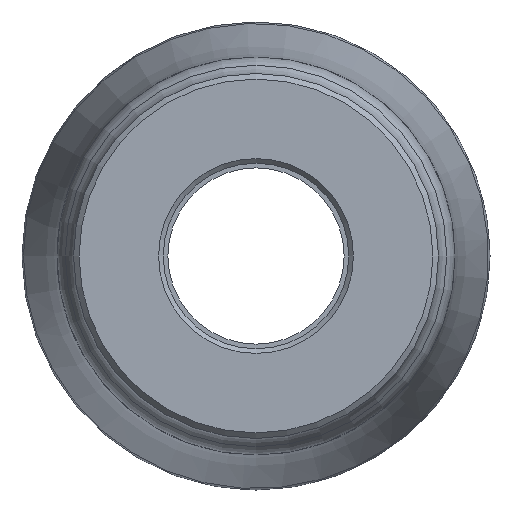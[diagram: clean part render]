
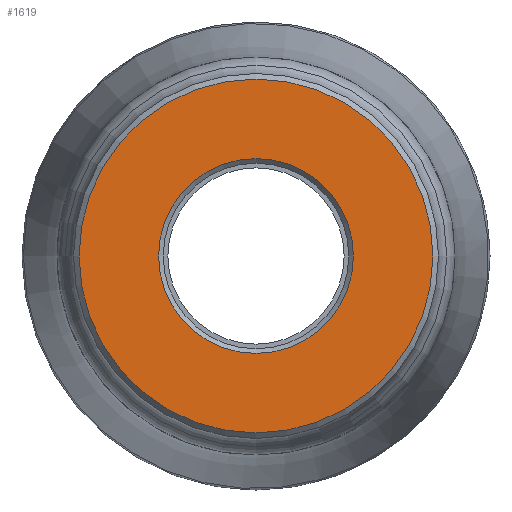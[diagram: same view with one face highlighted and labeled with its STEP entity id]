
A CAD part, left-side view. The second image highlights one B-rep face of the part: STEP entity #1619.
In plain terms, the highlighted planar face has unit normal (-1, 0, 0).
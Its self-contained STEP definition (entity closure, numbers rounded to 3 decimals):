
#29=FACE_BOUND('',#401,.T.);
#212=PLANE('',#1776);
#290=FACE_OUTER_BOUND('',#400,.T.);
#400=EDGE_LOOP('',(#1219));
#401=EDGE_LOOP('',(#1220));
#542=CIRCLE('',#1775,9.786);
#543=CIRCLE('',#1777,17.771);
#728=VERTEX_POINT('',#2914);
#729=VERTEX_POINT('',#2917);
#910=EDGE_CURVE('',#728,#728,#542,.T.);
#911=EDGE_CURVE('',#729,#729,#543,.T.);
#1219=ORIENTED_EDGE('',*,*,#911,.F.);
#1220=ORIENTED_EDGE('',*,*,#910,.F.);
#1619=ADVANCED_FACE('',(#290,#29),#212,.T.);
#1775=AXIS2_PLACEMENT_3D('',#2915,#2067,#2068);
#1776=AXIS2_PLACEMENT_3D('',#2916,#2069,#2070);
#1777=AXIS2_PLACEMENT_3D('',#2918,#2071,#2072);
#2067=DIRECTION('center_axis',(-1.,0.,0.));
#2068=DIRECTION('ref_axis',(0.,-1.,0.));
#2069=DIRECTION('center_axis',(-1.,0.,0.));
#2070=DIRECTION('ref_axis',(0.,0.,1.));
#2071=DIRECTION('center_axis',(1.,0.,0.));
#2072=DIRECTION('ref_axis',(0.,-1.,0.));
#2914=CARTESIAN_POINT('',(0.,9.786,0.));
#2915=CARTESIAN_POINT('Origin',(0.,0.,0.));
#2916=CARTESIAN_POINT('Origin',(0.,18.33,0.));
#2917=CARTESIAN_POINT('',(0.,17.771,0.));
#2918=CARTESIAN_POINT('Origin',(0.,0.,0.));
